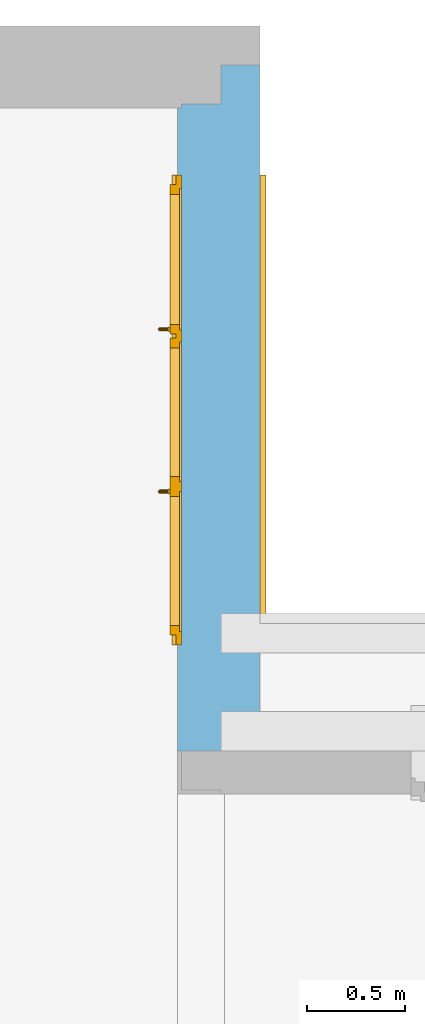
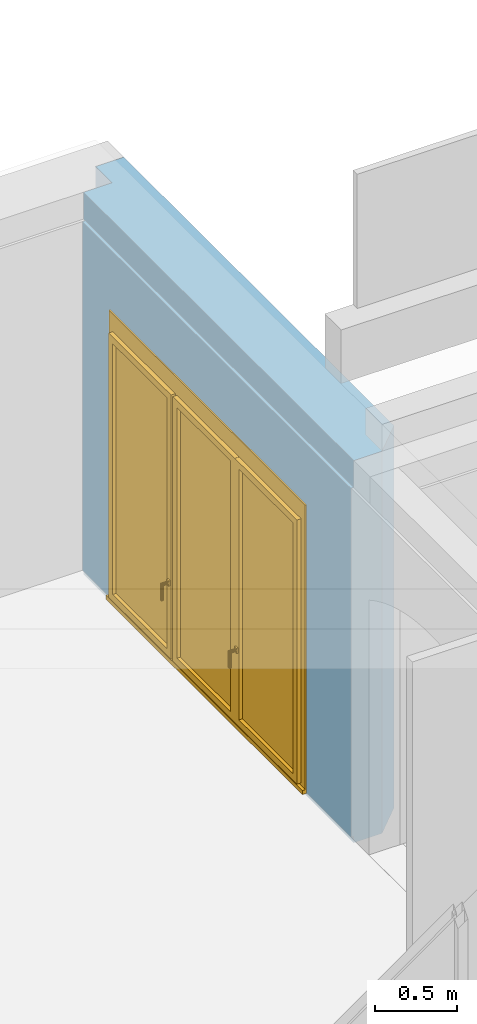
# One storey, part 11 of 16: 1 door, 1 opening, plus 1 element that does not belong to this part.
"""IFC4 building model written with IfcOpenShell, lengths in metres."""

from ifc_helpers import new_model, entity, si_unit, converted_unit, frame, origin, origin_with_axes, place, context, subcontext, project, spatial, polyline, outline, extrude, clip, bounded_halfspace, closed_shell, open_shell, surface_model, source, transform, mapped, material, layer, layer_set, layer_usage, type_object, element, fill, save


model = new_model("IFC4")

# Units and contexts
model_context = context("Model", 3, precision=1e-05, world=origin())
body_context = subcontext(model_context, "Body", "Model", "MODEL_VIEW")
ifc_project = project(units=[si_unit("LENGTHUNIT", "METRE"), si_unit("AREAUNIT", "SQUARE_METRE"), si_unit("VOLUMEUNIT", "CUBIC_METRE"), si_unit("MASSUNIT", "GRAM", prefix="KILO"), converted_unit("PLANEANGLEUNIT", "DEGREE", entity("IfcPlaneAngleMeasure", 0.0174532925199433), si_unit("PLANEANGLEUNIT", "RADIAN"), dimensions=[0, 0, 0, 0, 0, 0, 0])], contexts=[model_context])

# Building, storey
building_placement = place(None, origin())
building = spatial("IfcBuilding", under=ifc_project, at=building_placement, Name="Projet de Construction", CompositionType="ELEMENT")
storey_placement = place(building_placement, frame((0.0, 0.0, -0.05)))
storey = spatial("IfcBuildingStorey", under=building, at=storey_placement, Name="RDC", CompositionType="ELEMENT", Elevation=-0.05)

# Wall, opening, door
ifc_material_1 = material()
ifc_layer_1 = layer(ifc_material_1, 0.2)
ifc_material_2 = material()
ifc_layer_2 = layer(ifc_material_2, 0.2)
ifc_material_3 = material()
ifc_layer_3 = layer(ifc_material_3, 0.02)
ifc_layer_set = layer_set([ifc_layer_1, ifc_layer_2, ifc_layer_3])
ifc_layer_usage = layer_usage(ifc_layer_set, "AXIS2", "POSITIVE", 0.0)
wall_placement = place(storey_placement, frame((3.5540625, 4.63979166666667, 0.0), z_axis=(0.0, 0.0, 1.0), x_axis=(0.0, 1.0, 0.0)))
wall = element("IfcWall", 1, at=wall_placement, inside=storey, material=ifc_layer_usage, context=body_context, shape_type="Clipping", body=[
    clip(clip(extrude(outline(polyline([(0.200000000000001, -0.420000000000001), (3.5, -0.420000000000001), (3.5, -0.22), (3.3, -0.22), (3.3, -0.02), (3.28, -0.02), (3.28, 0.0), (0.0, 0.0), (0.0, -0.22), (0.200000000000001, -0.420000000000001)])), frame((-0.200000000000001, 0.420000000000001, 0.0), z_axis=(0.0, 0.0, 1.0), x_axis=(1.0, 0.0, 0.0)), (0.0, 0.0, 1.0), 2.85), bounded_halfspace(frame((1.44, 0.410000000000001, 0.05), z_axis=(0.0, 0.0, 1.0), x_axis=(0.0, -1.0, 0.0)), True, origin_with_axes(), polyline([(-0.200000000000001, 0.420000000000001), (-0.200000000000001, 0.400000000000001), (3.08, 0.400000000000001), (3.08, 0.420000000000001), (-0.200000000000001, 0.420000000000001)]))), bounded_halfspace(frame((1.44, 0.410000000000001, 2.65), z_axis=(0.0, 0.0, -1.0), x_axis=(1.0, 1.38642485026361e-16, 0.0)), True, origin_with_axes(), polyline([(-0.200000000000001, 0.400000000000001), (3.08, 0.400000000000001), (3.08, 0.420000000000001), (-0.200000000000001, 0.420000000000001), (-0.200000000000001, 0.400000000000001)]))),
])
opening_placement = place(wall_placement, frame((2.74, 0.200000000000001, 0.05), z_axis=(0.0, -1.0, 0.0), x_axis=(0.0, 0.0, 1.0)))
opening = element("IfcOpeningStandardCase", 2, at=opening_placement, cuts=wall, Name="Baie de porte", PredefinedType="OPENING", context=body_context, shape_type="SweptSolid", body=[
    extrude(outline(polyline([(0.0, 2.4), (2.15, 2.4), (2.15, 0.0), (0.0, 0.0), (0.0, 2.4)])), origin_with_axes(), (0.0, 0.0, 1.0), 0.200000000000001),
    extrude(outline(polyline([(0.0, 2.4), (2.15, 2.4), (2.15, 0.0), (0.0, 0.0), (0.0, 2.4)])), frame((0.0, 0.0, -0.2), z_axis=(0.0, 0.0, 1.0), x_axis=(1.0, 0.0, 0.0)), (0.0, 0.0, 1.0), 0.2),
    extrude(outline(polyline([(0.0, 2.4), (2.15, 2.4), (2.15, 0.0), (0.0, 0.0), (0.0, 2.4)])), frame((0.0, 0.0, -0.22), z_axis=(0.0, 0.0, 1.0), x_axis=(1.0, 0.0, 0.0)), (0.0, 0.0, 1.0), 0.02),
])
ifc_material_4 = material()
door_type = type_object("IfcDoorType", Name="3 vantaux volet roulant, blanc", OperationType="NOTDEFINED", ParameterTakesPrecedence=False, PredefinedType="DOOR")
shared_shape = source(origin_with_axes(), body_context, "Body", "SurfaceModel", [
    surface_model("IfcShellBasedSurfaceModel", [(0.0, 0.0199999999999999, 0.03), (0.0, 0.39, 0.03), (-3.67394039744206e-18, 0.39, 0.06), (-2.44929359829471e-18, 0.0, 0.05), (3.67394039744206e-18, 0.0, -3.5527136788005e-18), (3.67394039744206e-18, 0.0199999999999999, -3.5527136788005e-18), (2.4, 0.39, 0.0300000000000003), (2.4, 0.0199999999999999, 0.0300000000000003), (2.4, 0.0199999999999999, 2.91322521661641e-16), (2.4, 0.0, 2.91322521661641e-16), (2.4, 0.0, 0.0500000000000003), (2.4, 0.39, 0.0600000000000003)], [closed_shell([[[0, 1, 2, 3, 4, 5]], [[6, 7, 8, 9, 10, 11]], [[1, 0, 7, 6]], [[2, 1, 6, 11]], [[3, 2, 11, 10]], [[4, 3, 10, 9]], [[5, 4, 9, 8]], [[0, 5, 8, 7]]], orient=[[False], [False], [False], [False], [False], [False], [False], [False]])]),
    surface_model("IfcShellBasedSurfaceModel", [(0.0, 0.48, 0.03), (-3.67394039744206e-18, 0.48, 0.06), (-3.67394039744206e-18, 0.43, 0.06), (0.0, 0.43, 0.03), (2.4, 0.43, 0.0300000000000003), (2.4, 0.43, 0.0600000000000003), (2.4, 0.48, 0.0600000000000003), (2.4, 0.48, 0.0300000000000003)], [closed_shell([[[0, 1, 2, 3]], [[4, 5, 6, 7]], [[3, 4, 7, 0]], [[2, 5, 4, 3]], [[1, 6, 5, 2]], [[0, 7, 6, 1]]], orient=[[False], [False], [False], [False], [False], [False]])]),
    surface_model("IfcShellBasedSurfaceModel", [(0.0, 0.39, 2.18), (0.0, 0.39, 2.03), (2.4, 0.39, 2.03), (2.4, 0.39, 2.18), (0.0, 0.19, 2.03), (0.0, 0.19, 2.18), (2.4, 0.19, 2.18), (2.4, 0.19, 2.03)], [closed_shell([[[0, 1, 2, 3]], [[4, 5, 6, 7]], [[1, 0, 5, 4]], [[2, 1, 4, 7]], [[3, 2, 7, 6]], [[0, 3, 6, 5]]], orient=[[False], [False], [False], [False], [False], [False]])]),
    surface_model("IfcShellBasedSurfaceModel", [(0.0, 0.39, 2.03), (0.0, 0.39, 0.03), (0.02, 0.39, 0.03), (0.02, 0.39, 2.03), (0.0, 0.37, 0.03), (0.0, 0.37, 2.03), (0.02, 0.37, 2.03), (0.02, 0.37, 0.03)], [closed_shell([[[0, 1, 2, 3]], [[4, 5, 6, 7]], [[1, 0, 5, 4]], [[2, 1, 4, 7]], [[3, 2, 7, 6]], [[0, 3, 6, 5]]], orient=[[False], [False], [False], [False], [False], [False]])]),
    surface_model("IfcShellBasedSurfaceModel", [(2.38, 0.39, 2.03), (2.38, 0.39, 0.03), (2.4, 0.39, 0.03), (2.4, 0.39, 2.03), (2.38, 0.37, 0.03), (2.38, 0.37, 2.03), (2.4, 0.37, 2.03), (2.4, 0.37, 0.03)], [closed_shell([[[0, 1, 2, 3]], [[4, 5, 6, 7]], [[1, 0, 5, 4]], [[2, 1, 4, 7]], [[3, 2, 7, 6]], [[0, 3, 6, 5]]], orient=[[False], [False], [False], [False], [False], [False]])]),
    surface_model("IfcShellBasedSurfaceModel", [(0.01, 0.385, 2.025), (0.01, 0.385, 1.975), (2.39, 0.385, 1.975), (2.39, 0.385, 2.025), (0.01, 0.375, 1.975), (0.01, 0.375, 2.025), (2.39, 0.375, 2.025), (2.39, 0.375, 1.975)], [closed_shell([[[0, 1, 2, 3]], [[4, 5, 6, 7]], [[1, 0, 5, 4]], [[2, 1, 4, 7]], [[3, 2, 7, 6]], [[0, 3, 6, 5]]], orient=[[False], [False], [False], [False], [False], [False]])]),
    surface_model("IfcShellBasedSurfaceModel", [(0.01, 0.385, 1.97), (0.01, 0.385, 1.92), (2.39, 0.385, 1.92), (2.39, 0.385, 1.97), (0.01, 0.375, 1.92), (0.01, 0.375, 1.97), (2.39, 0.375, 1.97), (2.39, 0.375, 1.92)], [closed_shell([[[0, 1, 2, 3]], [[4, 5, 6, 7]], [[1, 0, 5, 4]], [[2, 1, 4, 7]], [[3, 2, 7, 6]], [[0, 3, 6, 5]]], orient=[[False], [False], [False], [False], [False], [False]])]),
    surface_model("IfcShellBasedSurfaceModel", [(0.01, 0.385, 1.915), (0.01, 0.385, 1.865), (2.39, 0.385, 1.865), (2.39, 0.385, 1.915), (0.01, 0.375, 1.865), (0.01, 0.375, 1.915), (2.39, 0.375, 1.915), (2.39, 0.375, 1.865)], [closed_shell([[[0, 1, 2, 3]], [[4, 5, 6, 7]], [[1, 0, 5, 4]], [[2, 1, 4, 7]], [[3, 2, 7, 6]], [[0, 3, 6, 5]]], orient=[[False], [False], [False], [False], [False], [False]])]),
    surface_model("IfcShellBasedSurfaceModel", [(0.01, 0.385, 1.86), (0.01, 0.385, 1.81), (2.39, 0.385, 1.81), (2.39, 0.385, 1.86), (0.01, 0.375, 1.81), (0.01, 0.375, 1.86), (2.39, 0.375, 1.86), (2.39, 0.375, 1.81)], [closed_shell([[[0, 1, 2, 3]], [[4, 5, 6, 7]], [[1, 0, 5, 4]], [[2, 1, 4, 7]], [[3, 2, 7, 6]], [[0, 3, 6, 5]]], orient=[[False], [False], [False], [False], [False], [False]])]),
    surface_model("IfcShellBasedSurfaceModel", [(0.01, 0.385, 1.805), (0.01, 0.385, 1.755), (2.39, 0.385, 1.755), (2.39, 0.385, 1.805), (0.01, 0.375, 1.755), (0.01, 0.375, 1.805), (2.39, 0.375, 1.805), (2.39, 0.375, 1.755)], [closed_shell([[[0, 1, 2, 3]], [[4, 5, 6, 7]], [[1, 0, 5, 4]], [[2, 1, 4, 7]], [[3, 2, 7, 6]], [[0, 3, 6, 5]]], orient=[[False], [False], [False], [False], [False], [False]])]),
    surface_model("IfcShellBasedSurfaceModel", [(0.01, 0.385, 1.75), (0.01, 0.385, 1.7), (2.39, 0.385, 1.7), (2.39, 0.385, 1.75), (0.01, 0.375, 1.7), (0.01, 0.375, 1.75), (2.39, 0.375, 1.75), (2.39, 0.375, 1.7)], [closed_shell([[[0, 1, 2, 3]], [[4, 5, 6, 7]], [[1, 0, 5, 4]], [[2, 1, 4, 7]], [[3, 2, 7, 6]], [[0, 3, 6, 5]]], orient=[[False], [False], [False], [False], [False], [False]])]),
    surface_model("IfcShellBasedSurfaceModel", [(0.01, 0.385, 1.695), (0.01, 0.385, 1.645), (2.39, 0.385, 1.645), (2.39, 0.385, 1.695), (0.01, 0.375, 1.645), (0.01, 0.375, 1.695), (2.39, 0.375, 1.695), (2.39, 0.375, 1.645)], [closed_shell([[[0, 1, 2, 3]], [[4, 5, 6, 7]], [[1, 0, 5, 4]], [[2, 1, 4, 7]], [[3, 2, 7, 6]], [[0, 3, 6, 5]]], orient=[[False], [False], [False], [False], [False], [False]])]),
    surface_model("IfcShellBasedSurfaceModel", [(0.01, 0.385, 1.64), (0.01, 0.385, 1.59), (2.39, 0.385, 1.59), (2.39, 0.385, 1.64), (0.01, 0.375, 1.59), (0.01, 0.375, 1.64), (2.39, 0.375, 1.64), (2.39, 0.375, 1.59)], [closed_shell([[[0, 1, 2, 3]], [[4, 5, 6, 7]], [[1, 0, 5, 4]], [[2, 1, 4, 7]], [[3, 2, 7, 6]], [[0, 3, 6, 5]]], orient=[[False], [False], [False], [False], [False], [False]])]),
    surface_model("IfcShellBasedSurfaceModel", [(0.01, 0.385, 1.585), (0.01, 0.385, 1.535), (2.39, 0.385, 1.535), (2.39, 0.385, 1.585), (0.01, 0.375, 1.535), (0.01, 0.375, 1.585), (2.39, 0.375, 1.585), (2.39, 0.375, 1.535)], [closed_shell([[[0, 1, 2, 3]], [[4, 5, 6, 7]], [[1, 0, 5, 4]], [[2, 1, 4, 7]], [[3, 2, 7, 6]], [[0, 3, 6, 5]]], orient=[[False], [False], [False], [False], [False], [False]])]),
    surface_model("IfcShellBasedSurfaceModel", [(0.01, 0.385, 1.53), (0.01, 0.385, 1.48), (2.39, 0.385, 1.48), (2.39, 0.385, 1.53), (0.01, 0.375, 1.48), (0.01, 0.375, 1.53), (2.39, 0.375, 1.53), (2.39, 0.375, 1.48)], [closed_shell([[[0, 1, 2, 3]], [[4, 5, 6, 7]], [[1, 0, 5, 4]], [[2, 1, 4, 7]], [[3, 2, 7, 6]], [[0, 3, 6, 5]]], orient=[[False], [False], [False], [False], [False], [False]])]),
    surface_model("IfcShellBasedSurfaceModel", [(0.0, 0.46, 2.18), (0.0, 0.46, 0.03), (0.07, 0.46, 0.03), (0.07, 0.46, 2.18), (0.0, 0.39, 0.03), (0.0, 0.39, 2.18), (0.07, 0.39, 2.18), (0.07, 0.39, 0.03)], [closed_shell([[[0, 1, 2, 3]], [[4, 5, 6, 7]], [[1, 0, 5, 4]], [[2, 1, 4, 7]], [[3, 2, 7, 6]], [[0, 3, 6, 5]]], orient=[[False], [False], [False], [False], [False], [False]])]),
    surface_model("IfcShellBasedSurfaceModel", [(2.33, 0.46, 2.18), (2.33, 0.46, 0.03), (2.4, 0.46, 0.03), (2.4, 0.46, 2.18), (2.33, 0.39, 0.03), (2.33, 0.39, 2.18), (2.4, 0.39, 2.18), (2.4, 0.39, 0.03)], [closed_shell([[[0, 1, 2, 3]], [[4, 5, 6, 7]], [[1, 0, 5, 4]], [[2, 1, 4, 7]], [[3, 2, 7, 6]], [[0, 3, 6, 5]]], orient=[[False], [False], [False], [False], [False], [False]])]),
    surface_model("IfcShellBasedSurfaceModel", [(0.07, 0.46, 0.1), (0.07, 0.46, 0.03), (2.33, 0.46, 0.03), (2.33, 0.46, 0.1), (0.07, 0.39, 0.03), (0.07, 0.39, 0.1), (2.33, 0.39, 0.1), (2.33, 0.39, 0.03)], [closed_shell([[[0, 1, 2, 3]], [[4, 5, 6, 7]], [[1, 0, 5, 4]], [[2, 1, 4, 7]], [[3, 2, 7, 6]], [[0, 3, 6, 5]]], orient=[[False], [False], [False], [False], [False], [False]])]),
    surface_model("IfcShellBasedSurfaceModel", [(0.07, 0.46, 2.18), (0.07, 0.46, 2.03), (2.33, 0.46, 2.03), (2.33, 0.46, 2.18), (0.07, 0.39, 2.03), (0.07, 0.39, 2.18), (2.33, 0.39, 2.18), (2.33, 0.39, 2.03)], [closed_shell([[[0, 1, 2, 3]], [[4, 5, 6, 7]], [[1, 0, 5, 4]], [[2, 1, 4, 7]], [[3, 2, 7, 6]], [[0, 3, 6, 5]]], orient=[[False], [False], [False], [False], [False], [False]])]),
    surface_model("IfcShellBasedSurfaceModel", [(1.54666666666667, 0.46, 2.03), (1.54666666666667, 0.46, 0.1), (1.60666666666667, 0.46, 0.1), (1.60666666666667, 0.46, 2.03), (1.54666666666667, 0.39, 0.1), (1.54666666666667, 0.39, 2.03), (1.60666666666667, 0.39, 2.03), (1.60666666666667, 0.39, 0.1)], [closed_shell([[[0, 1, 2, 3]], [[4, 5, 6, 7]], [[1, 0, 5, 4]], [[2, 1, 4, 7]], [[3, 2, 7, 6]], [[0, 3, 6, 5]]], orient=[[False], [False], [False], [False], [False], [False]])]),
    surface_model("IfcShellBasedSurfaceModel", [(1.58666666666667, 0.49, 2.05), (1.58666666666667, 0.49, 0.08), (1.63666666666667, 0.49, 0.08), (1.63666666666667, 0.49, 2.05), (1.58666666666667, 0.44, 0.08), (1.58666666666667, 0.44, 2.05), (1.63666666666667, 0.44, 2.05), (1.63666666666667, 0.44, 0.08)], [closed_shell([[[0, 1, 2, 3]], [[4, 5, 6, 7]], [[1, 0, 5, 4]], [[2, 1, 4, 7]], [[3, 2, 7, 6]], [[0, 3, 6, 5]]], orient=[[False], [False], [False], [False], [False], [False]])]),
    surface_model("IfcShellBasedSurfaceModel", [(2.3, 0.49, 2.05), (2.3, 0.49, 0.08), (2.35, 0.49, 0.08), (2.35, 0.49, 2.05), (2.3, 0.44, 0.08), (2.3, 0.44, 2.05), (2.35, 0.44, 2.05), (2.35, 0.44, 0.08)], [closed_shell([[[0, 1, 2, 3]], [[4, 5, 6, 7]], [[1, 0, 5, 4]], [[2, 1, 4, 7]], [[3, 2, 7, 6]], [[0, 3, 6, 5]]], orient=[[False], [False], [False], [False], [False], [False]])]),
    surface_model("IfcShellBasedSurfaceModel", [(1.63666666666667, 0.49, 0.13), (1.63666666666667, 0.49, 0.08), (2.3, 0.49, 0.08), (2.3, 0.49, 0.13), (1.63666666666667, 0.44, 0.08), (1.63666666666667, 0.44, 0.13), (2.3, 0.44, 0.13), (2.3, 0.44, 0.08)], [closed_shell([[[0, 1, 2, 3]], [[4, 5, 6, 7]], [[1, 0, 5, 4]], [[2, 1, 4, 7]], [[3, 2, 7, 6]], [[0, 3, 6, 5]]], orient=[[False], [False], [False], [False], [False], [False]])]),
    surface_model("IfcShellBasedSurfaceModel", [(1.63666666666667, 0.49, 2.05), (1.63666666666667, 0.49, 2.0), (2.3, 0.49, 2.0), (2.3, 0.49, 2.05), (1.63666666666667, 0.44, 2.0), (1.63666666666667, 0.44, 2.05), (2.3, 0.44, 2.05), (2.3, 0.44, 2.0)], [closed_shell([[[0, 1, 2, 3]], [[4, 5, 6, 7]], [[1, 0, 5, 4]], [[2, 1, 4, 7]], [[3, 2, 7, 6]], [[0, 3, 6, 5]]], orient=[[False], [False], [False], [False], [False], [False]])]),
    surface_model("IfcShellBasedSurfaceModel", [(1.59916666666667, 0.49, 0.66), (1.62416666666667, 0.49, 0.66), (1.62416666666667, 0.49, 0.62), (1.59916666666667, 0.49, 0.62), (1.59916666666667, 0.5, 0.62), (1.62416666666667, 0.5, 0.62), (1.62416666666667, 0.5, 0.66), (1.59916666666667, 0.5, 0.66)], [closed_shell([[[0, 1, 2, 3]], [[4, 5, 6, 7]], [[3, 4, 7, 0]], [[2, 5, 4, 3]], [[1, 6, 5, 2]], [[0, 7, 6, 1]]], orient=[[False], [False], [False], [False], [False], [False]])]),
    surface_model("IfcShellBasedSurfaceModel", [(1.62166666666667, 0.5, 0.64), (1.62032692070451, 0.5, 0.635), (1.61666666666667, 0.5, 0.631339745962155), (1.61166666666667, 0.5, 0.63), (1.60666666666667, 0.5, 0.631339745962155), (1.60300641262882, 0.5, 0.635), (1.60166666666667, 0.5, 0.64), (1.60300641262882, 0.5, 0.645), (1.60666666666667, 0.5, 0.648660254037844), (1.61166666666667, 0.5, 0.65), (1.61666666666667, 0.5, 0.648660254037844), (1.62032692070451, 0.5, 0.645), (1.62032692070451, 0.545, 0.645), (1.62166666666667, 0.54, 0.64), (1.61666666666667, 0.548660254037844, 0.648660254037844), (1.61166666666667, 0.55, 0.65), (1.60666666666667, 0.548660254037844, 0.648660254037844), (1.60300641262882, 0.545, 0.645), (1.60166666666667, 0.54, 0.64), (1.60300641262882, 0.535, 0.635), (1.60666666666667, 0.531339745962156, 0.631339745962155), (1.61166666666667, 0.53, 0.63), (1.61666666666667, 0.531339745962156, 0.631339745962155), (1.62032692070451, 0.535, 0.635), (1.62166666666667, 0.54, 0.525), (1.62032692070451, 0.545, 0.525), (1.61666666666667, 0.548660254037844, 0.525), (1.61166666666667, 0.55, 0.525), (1.60666666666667, 0.548660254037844, 0.525), (1.60300641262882, 0.545, 0.525), (1.60166666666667, 0.54, 0.525), (1.60300641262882, 0.535, 0.525), (1.60666666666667, 0.531339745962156, 0.525), (1.61166666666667, 0.53, 0.525), (1.61666666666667, 0.531339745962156, 0.525), (1.62032692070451, 0.535, 0.525)], [closed_shell([[[0, 1, 2, 3, 4, 5, 6, 7, 8, 9, 10, 11]], [[0, 11, 12, 13]], [[11, 10, 14, 12]], [[10, 9, 15, 14]], [[9, 8, 16, 15]], [[8, 7, 17, 16]], [[7, 6, 18, 17]], [[6, 5, 19, 18]], [[5, 4, 20, 19]], [[4, 3, 21, 20]], [[3, 2, 22, 21]], [[2, 1, 23, 22]], [[1, 0, 13, 23]], [[24, 25, 26, 27, 28, 29, 30, 31, 32, 33, 34, 35]], [[13, 12, 25, 24]], [[12, 14, 26, 25]], [[14, 15, 27, 26]], [[15, 16, 28, 27]], [[16, 17, 29, 28]], [[17, 18, 30, 29]], [[18, 19, 31, 30]], [[19, 20, 32, 31]], [[20, 21, 33, 32]], [[21, 22, 34, 33]], [[22, 23, 35, 34]], [[23, 13, 24, 35]]], orient=[[False], [False], [False], [False], [False], [False], [False], [False], [False], [False], [False], [False], [False], [False], [False], [False], [False], [False], [False], [False], [False], [False], [False], [False], [False], [False]])]),
    surface_model("IfcShellBasedSurfaceModel", [(0.05, 0.49, 2.05), (0.05, 0.49, 0.08), (0.1, 0.49, 0.08), (0.1, 0.49, 2.05), (0.05, 0.44, 0.08), (0.05, 0.44, 2.05), (0.1, 0.44, 2.05), (0.1, 0.44, 0.08)], [closed_shell([[[0, 1, 2, 3]], [[4, 5, 6, 7]], [[1, 0, 5, 4]], [[2, 1, 4, 7]], [[3, 2, 7, 6]], [[0, 3, 6, 5]]], orient=[[False], [False], [False], [False], [False], [False]])]),
    surface_model("IfcShellBasedSurfaceModel", [(0.757833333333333, 0.49, 2.05), (0.757833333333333, 0.49, 0.08), (0.807833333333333, 0.49, 0.08), (0.807833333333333, 0.49, 2.05), (0.757833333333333, 0.44, 0.08), (0.757833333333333, 0.44, 2.05), (0.807833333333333, 0.44, 2.05), (0.807833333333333, 0.44, 0.08)], [closed_shell([[[0, 1, 2, 3]], [[4, 5, 6, 7]], [[1, 0, 5, 4]], [[2, 1, 4, 7]], [[3, 2, 7, 6]], [[0, 3, 6, 5]]], orient=[[False], [False], [False], [False], [False], [False]])]),
    surface_model("IfcShellBasedSurfaceModel", [(0.1, 0.49, 0.13), (0.1, 0.49, 0.08), (0.757833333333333, 0.49, 0.08), (0.757833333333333, 0.49, 0.13), (0.1, 0.44, 0.08), (0.1, 0.44, 0.13), (0.757833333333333, 0.44, 0.13), (0.757833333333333, 0.44, 0.08)], [closed_shell([[[0, 1, 2, 3]], [[4, 5, 6, 7]], [[1, 0, 5, 4]], [[2, 1, 4, 7]], [[3, 2, 7, 6]], [[0, 3, 6, 5]]], orient=[[False], [False], [False], [False], [False], [False]])]),
    surface_model("IfcShellBasedSurfaceModel", [(0.1, 0.49, 2.05), (0.1, 0.49, 2.0), (0.757833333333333, 0.49, 2.0), (0.757833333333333, 0.49, 2.05), (0.1, 0.44, 2.0), (0.1, 0.44, 2.05), (0.757833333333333, 0.44, 2.05), (0.757833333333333, 0.44, 2.0)], [closed_shell([[[0, 1, 2, 3]], [[4, 5, 6, 7]], [[1, 0, 5, 4]], [[2, 1, 4, 7]], [[3, 2, 7, 6]], [[0, 3, 6, 5]]], orient=[[False], [False], [False], [False], [False], [False]])]),
    surface_model("IfcShellBasedSurfaceModel", [(0.770333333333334, 0.49, 0.66), (0.795333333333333, 0.49, 0.66), (0.795333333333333, 0.49, 0.62), (0.770333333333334, 0.49, 0.62), (0.770333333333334, 0.5, 0.62), (0.795333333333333, 0.5, 0.62), (0.795333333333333, 0.5, 0.66), (0.770333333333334, 0.5, 0.66)], [closed_shell([[[0, 1, 2, 3]], [[4, 5, 6, 7]], [[3, 4, 7, 0]], [[2, 5, 4, 3]], [[1, 6, 5, 2]], [[0, 7, 6, 1]]], orient=[[False], [False], [False], [False], [False], [False]])]),
    surface_model("IfcShellBasedSurfaceModel", [(0.792833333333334, 0.5, 0.64), (0.791493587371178, 0.5, 0.635), (0.787833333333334, 0.5, 0.631339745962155), (0.782833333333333, 0.5, 0.63), (0.777833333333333, 0.5, 0.631339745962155), (0.774173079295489, 0.5, 0.635), (0.772833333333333, 0.5, 0.64), (0.774173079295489, 0.5, 0.645), (0.777833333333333, 0.5, 0.648660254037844), (0.782833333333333, 0.5, 0.65), (0.787833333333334, 0.5, 0.648660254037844), (0.791493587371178, 0.5, 0.645), (0.791493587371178, 0.545, 0.645), (0.792833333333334, 0.54, 0.64), (0.787833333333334, 0.548660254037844, 0.648660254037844), (0.782833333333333, 0.55, 0.65), (0.777833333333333, 0.548660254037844, 0.648660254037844), (0.774173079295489, 0.545, 0.645), (0.772833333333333, 0.54, 0.64), (0.774173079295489, 0.535, 0.635), (0.777833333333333, 0.531339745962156, 0.631339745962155), (0.782833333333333, 0.53, 0.63), (0.787833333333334, 0.531339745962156, 0.631339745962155), (0.791493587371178, 0.535, 0.635), (0.792833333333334, 0.54, 0.525), (0.791493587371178, 0.545, 0.525), (0.787833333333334, 0.548660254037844, 0.525), (0.782833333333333, 0.55, 0.525), (0.777833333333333, 0.548660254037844, 0.525), (0.774173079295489, 0.545, 0.525), (0.772833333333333, 0.54, 0.525), (0.774173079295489, 0.535, 0.525), (0.777833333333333, 0.531339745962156, 0.525), (0.782833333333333, 0.53, 0.525), (0.787833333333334, 0.531339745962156, 0.525), (0.791493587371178, 0.535, 0.525)], [closed_shell([[[0, 1, 2, 3, 4, 5, 6, 7, 8, 9, 10, 11]], [[0, 11, 12, 13]], [[11, 10, 14, 12]], [[10, 9, 15, 14]], [[9, 8, 16, 15]], [[8, 7, 17, 16]], [[7, 6, 18, 17]], [[6, 5, 19, 18]], [[5, 4, 20, 19]], [[4, 3, 21, 20]], [[3, 2, 22, 21]], [[2, 1, 23, 22]], [[1, 0, 13, 23]], [[24, 25, 26, 27, 28, 29, 30, 31, 32, 33, 34, 35]], [[13, 12, 25, 24]], [[12, 14, 26, 25]], [[14, 15, 27, 26]], [[15, 16, 28, 27]], [[16, 17, 29, 28]], [[17, 18, 30, 29]], [[18, 19, 31, 30]], [[19, 20, 32, 31]], [[20, 21, 33, 32]], [[21, 22, 34, 33]], [[22, 23, 35, 34]], [[23, 13, 24, 35]]], orient=[[False], [False], [False], [False], [False], [False], [False], [False], [False], [False], [False], [False], [False], [False], [False], [False], [False], [False], [False], [False], [False], [False], [False], [False], [False], [False]])]),
    surface_model("IfcShellBasedSurfaceModel", [(0.808833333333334, 0.49, 2.05), (0.808833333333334, 0.49, 0.08), (0.858833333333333, 0.49, 0.08), (0.858833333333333, 0.49, 2.05), (0.808833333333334, 0.44, 0.08), (0.808833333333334, 0.44, 2.05), (0.858833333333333, 0.44, 2.05), (0.858833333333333, 0.44, 0.08)], [closed_shell([[[0, 1, 2, 3]], [[4, 5, 6, 7]], [[1, 0, 5, 4]], [[2, 1, 4, 7]], [[3, 2, 7, 6]], [[0, 3, 6, 5]]], orient=[[False], [False], [False], [False], [False], [False]])]),
    surface_model("IfcShellBasedSurfaceModel", [(1.51666666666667, 0.49, 2.05), (1.51666666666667, 0.49, 0.08), (1.56666666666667, 0.49, 0.08), (1.56666666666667, 0.49, 2.05), (1.51666666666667, 0.44, 0.08), (1.51666666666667, 0.44, 2.05), (1.56666666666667, 0.44, 2.05), (1.56666666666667, 0.44, 0.08)], [closed_shell([[[0, 1, 2, 3]], [[4, 5, 6, 7]], [[1, 0, 5, 4]], [[2, 1, 4, 7]], [[3, 2, 7, 6]], [[0, 3, 6, 5]]], orient=[[False], [False], [False], [False], [False], [False]])]),
    surface_model("IfcShellBasedSurfaceModel", [(0.858833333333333, 0.49, 0.13), (0.858833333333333, 0.49, 0.08), (1.51666666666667, 0.49, 0.08), (1.51666666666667, 0.49, 0.13), (0.858833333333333, 0.44, 0.08), (0.858833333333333, 0.44, 0.13), (1.51666666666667, 0.44, 0.13), (1.51666666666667, 0.44, 0.08)], [closed_shell([[[0, 1, 2, 3]], [[4, 5, 6, 7]], [[1, 0, 5, 4]], [[2, 1, 4, 7]], [[3, 2, 7, 6]], [[0, 3, 6, 5]]], orient=[[False], [False], [False], [False], [False], [False]])]),
    surface_model("IfcShellBasedSurfaceModel", [(0.858833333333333, 0.49, 2.05), (0.858833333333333, 0.49, 2.0), (1.51666666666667, 0.49, 2.0), (1.51666666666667, 0.49, 2.05), (0.858833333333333, 0.44, 2.0), (0.858833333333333, 0.44, 2.05), (1.51666666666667, 0.44, 2.05), (1.51666666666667, 0.44, 2.0)], [closed_shell([[[0, 1, 2, 3]], [[4, 5, 6, 7]], [[1, 0, 5, 4]], [[2, 1, 4, 7]], [[3, 2, 7, 6]], [[0, 3, 6, 5]]], orient=[[False], [False], [False], [False], [False], [False]])]),
    surface_model("IfcShellBasedSurfaceModel", [(0.783833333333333, 0.44, 2.03), (0.783833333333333, 0.44, 0.1), (0.833833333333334, 0.44, 0.1), (0.833833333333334, 0.44, 2.03), (0.783833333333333, 0.415, 0.1), (0.783833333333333, 0.415, 2.03), (0.833833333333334, 0.415, 2.03), (0.833833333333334, 0.415, 0.1)], [closed_shell([[[0, 1, 2, 3]], [[4, 5, 6, 7]], [[1, 0, 5, 4]], [[2, 1, 4, 7]], [[3, 2, 7, 6]], [[0, 3, 6, 5]]], orient=[[False], [False], [False], [False], [False], [False]])]),
    surface_model("IfcShellBasedSurfaceModel", [(0.1, 0.465, 0.13), (0.757833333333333, 0.465, 0.13), (0.757833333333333, 0.465, 2.0), (0.1, 0.465, 2.0)], [open_shell([[[0, 1, 2, 3]]], orient=[[False]])]),
    surface_model("IfcShellBasedSurfaceModel", [(0.858833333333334, 0.465, 0.13), (1.51666666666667, 0.465, 0.13), (1.51666666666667, 0.465, 2.0), (0.858833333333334, 0.465, 2.0)], [open_shell([[[0, 1, 2, 3]]], orient=[[False]])]),
    surface_model("IfcShellBasedSurfaceModel", [(1.63666666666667, 0.465, 0.13), (2.3, 0.465, 0.13), (2.3, 0.465, 2.0), (1.63666666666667, 0.465, 2.0)], [open_shell([[[0, 1, 2, 3]]], orient=[[False]])]),
])
door_placement = place(opening_placement, frame((-0.03, 2.4, 0.23), z_axis=(1.0, 0.0, 0.0), x_axis=(0.0, -1.0, 1.22464679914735e-16)))
door = element("IfcDoor", 3, at=door_placement, inside=storey, type_object=door_type, material=ifc_material_4, Name="3 vantaux volet roulant, blanc", OverallHeight=2.15, OverallWidth=2.4, context=body_context, shape_type="MappedRepresentation", body=[
    mapped(shared_shape, transform((0.0, 0.0, 0.0), x_axis=(1.0, 0.0, 0.0), y_axis=(0.0, 1.0, 0.0), z_axis=(0.0, 0.0, 1.0), scale=1.0)),
])
fill(opening, door)

save(model, "model.ifc")
